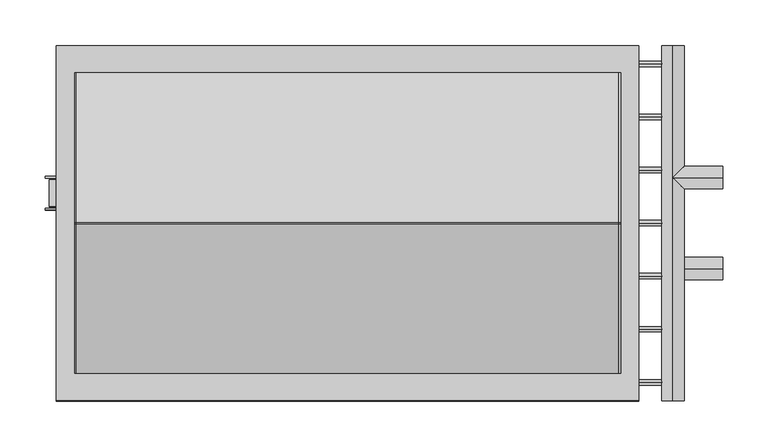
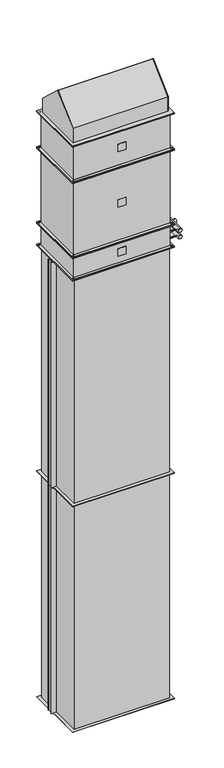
"""IFC4 building model written with IfcOpenShell, lengths in millimetres: proxy geometry, KORF_Завеса_ВодянойНагрев_PWZ_C : PWZ-C 60-35 W2."""

from ifc_helpers import new_model, si_unit, point, frame, frame_2d, origin, origin_with_axes, place, context, project, spatial, polyline, circle_curve, ellipse_curve, trimmed, segment, composite_curve, outline, extrude, source, transform, mapped, element, save
from ifc_brep_helpers import plane_surface, cylinder_surface, advanced_brep


def mechanical_equipment_274835f8(model_context):
    return source(origin(), model_context, "Body", "SolidModel", [
        extrude(outline(polyline([(25.0, -180.0), (-25.0, -180.0), (-25.0, -178.0), (25.0, -178.0), (25.0, -180.0)])), frame((0.0, 0.0, 3050.0), z_axis=(0.0, 0.0, 1.0), x_axis=(1.0, 0.0, 0.0)), (0.0, 0.0, 1.0), 50.0),
        extrude(outline(polyline([(320.0, -195.0), (-320.0, -195.0), (-320.0, 195.0), (320.0, 195.0), (320.0, -195.0)]), holes=[polyline([(300.0, -175.0), (300.0, 175.0), (-300.0, 175.0), (-300.0, -175.0), (300.0, -175.0)]), composite_curve([segment(trimmed(circle_curve(frame_2d((-310.0, -185.0)), 4.5), [point((-305.5, -185.0))], [point((-314.5, -185.0))], True, "CARTESIAN"), True, "CONTINUOUS"), segment(trimmed(circle_curve(frame_2d((-310.0, -185.0)), 4.5), [point((-314.5, -185.0))], [point((-305.5, -185.0))], True, "CARTESIAN"), True, "CONTINUOUS")], self_intersect=False), composite_curve([segment(trimmed(circle_curve(frame_2d((310.0, -185.0)), 4.5), [point((314.5, -185.0))], [point((305.5, -185.0))], True, "CARTESIAN"), True, "CONTINUOUS"), segment(trimmed(circle_curve(frame_2d((310.0, -185.0)), 4.5), [point((305.5, -185.0))], [point((314.5, -185.0))], True, "CARTESIAN"), True, "CONTINUOUS")], self_intersect=False), composite_curve([segment(trimmed(circle_curve(frame_2d((310.0, 185.0)), 4.5), [point((314.5, 185.0))], [point((305.5, 185.0))], True, "CARTESIAN"), True, "CONTINUOUS"), segment(trimmed(circle_curve(frame_2d((310.0, 185.0)), 4.5), [point((305.5, 185.0))], [point((314.5, 185.0))], True, "CARTESIAN"), True, "CONTINUOUS")], self_intersect=False), composite_curve([segment(trimmed(circle_curve(frame_2d((-310.0, 185.0)), 4.5), [point((-305.5, 185.0))], [point((-314.5, 185.0))], True, "CARTESIAN"), True, "CONTINUOUS"), segment(trimmed(circle_curve(frame_2d((-310.0, 185.0)), 4.5), [point((-314.5, 185.0))], [point((-305.5, 185.0))], True, "CARTESIAN"), True, "CONTINUOUS")], self_intersect=False)]), frame((0.0, 0.0, 3145.0), z_axis=(0.0, 0.0, 1.0), x_axis=(1.0, 0.0, 0.0)), (0.0, 0.0, 1.0), 5.0),
        extrude(outline(polyline([(320.0, -195.0), (-320.0, -195.0), (-320.0, 195.0), (320.0, 195.0), (320.0, -195.0)]), holes=[polyline([(300.0, -175.0), (300.0, 175.0), (-300.0, 175.0), (-300.0, -175.0), (300.0, -175.0)]), composite_curve([segment(trimmed(circle_curve(frame_2d((-310.0, -185.0)), 4.5), [point((-305.5, -185.0))], [point((-314.5, -185.0))], True, "CARTESIAN"), True, "CONTINUOUS"), segment(trimmed(circle_curve(frame_2d((-310.0, -185.0)), 4.5), [point((-314.5, -185.0))], [point((-305.5, -185.0))], True, "CARTESIAN"), True, "CONTINUOUS")], self_intersect=False), composite_curve([segment(trimmed(circle_curve(frame_2d((310.0, -185.0)), 4.5), [point((314.5, -185.0))], [point((305.5, -185.0))], True, "CARTESIAN"), True, "CONTINUOUS"), segment(trimmed(circle_curve(frame_2d((310.0, -185.0)), 4.5), [point((305.5, -185.0))], [point((314.5, -185.0))], True, "CARTESIAN"), True, "CONTINUOUS")], self_intersect=False), composite_curve([segment(trimmed(circle_curve(frame_2d((310.0, 185.0)), 4.5), [point((314.5, 185.0))], [point((305.5, 185.0))], True, "CARTESIAN"), True, "CONTINUOUS"), segment(trimmed(circle_curve(frame_2d((310.0, 185.0)), 4.5), [point((305.5, 185.0))], [point((314.5, 185.0))], True, "CARTESIAN"), True, "CONTINUOUS")], self_intersect=False), composite_curve([segment(trimmed(circle_curve(frame_2d((-310.0, 185.0)), 4.5), [point((-305.5, 185.0))], [point((-314.5, 185.0))], True, "CARTESIAN"), True, "CONTINUOUS"), segment(trimmed(circle_curve(frame_2d((-310.0, 185.0)), 4.5), [point((-314.5, 185.0))], [point((-305.5, 185.0))], True, "CARTESIAN"), True, "CONTINUOUS")], self_intersect=False)]), frame((0.0, 0.0, 3000.0), z_axis=(0.0, 0.0, 1.0), x_axis=(1.0, 0.0, 0.0)), (0.0, 0.0, 1.0), 5.0),
        extrude(outline(polyline([(303.0, -178.0), (-303.0, -178.0), (-303.0, 178.0), (303.0, 178.0), (303.0, -178.0)])), frame((0.0, 0.0, 3005.0), z_axis=(0.0, 0.0, 1.0), x_axis=(1.0, 0.0, 0.0)), (0.0, 0.0, 1.0), 140.0),
        advanced_brep(
        [(412.0, -50.0, 3041.0), (412.0, -50.0, 3066.0), (357.5, -50.0, 3041.0), (357.5, -50.0, 3066.0), (357.5, -195.0, 3041.0), (357.5, -195.0, 3066.0), (357.5, 195.0, 3041.0), (357.5, 195.0, 3066.0)],
        [
            (0, 1, circle_curve(frame((412.0, -50.0, 3053.5), z_axis=(1.0, 0.0, 0.0), x_axis=(0.0, 0.0, 1.0000000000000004)), 12.5)),
            (1, 0, circle_curve(frame((412.0, -50.0, 3053.5), z_axis=(1.0, 0.0, 0.0), x_axis=(0.0, 0.0, 1.0000000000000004)), 12.5)),
            (0, 2),
            (2, 3, ellipse_curve(frame((357.5, -50.0, 3053.5), z_axis=(0.7071067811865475, -0.7071067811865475, 0.0), x_axis=(0.7071067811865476, 0.7071067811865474, 0.0)), 17.6776695, 12.5)),
            (3, 1),
            (3, 2, ellipse_curve(frame((357.5, -50.0, 3053.5), z_axis=(0.7071067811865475, 0.7071067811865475, 0.0), x_axis=(0.7071067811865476, -0.7071067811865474, 0.0)), 17.6776695, 12.5)),
            (4, 5, circle_curve(frame((357.5, -195.0, 3053.5), z_axis=(0.0, -1.0, 0.0), x_axis=(0.0, 0.0, 1.0000000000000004)), 12.5)),
            (5, 4, circle_curve(frame((357.5, -195.0, 3053.5), z_axis=(0.0, -1.0, 0.0), x_axis=(0.0, 0.0, 1.0000000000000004)), 12.5)),
            (6, 7, circle_curve(frame((357.5, 195.0, 3053.5), z_axis=(0.0, 1.0, 0.0), x_axis=(0.0, 0.0, 1.0000000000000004)), 12.5)),
            (7, 6, circle_curve(frame((357.5, 195.0, 3053.5), z_axis=(0.0, 1.0, 0.0), x_axis=(0.0, 0.0, 1.0000000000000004)), 12.5)),
            (4, 2),
            (3, 5),
            (7, 3),
            (2, 6),
        ],
        [
            plane_surface(frame((412.0, -50.0, 3066.0), z_axis=(1.0, 0.0, 0.0), x_axis=(0.0, -1.0, 0.0))),
            cylinder_surface(frame((357.5, -50.0, 3053.5), z_axis=(1.0000000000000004, 0.0, 0.0), x_axis=(0.0, 0.0, 1.0000000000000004)), 12.5),
            plane_surface(frame((357.5, -195.0, 3066.0), z_axis=(0.0, -1.0, 0.0), x_axis=(-1.0, 0.0, 0.0))),
            plane_surface(frame((357.5, 195.0, 3066.0), z_axis=(0.0, 1.0, 0.0), x_axis=(1.0, 0.0, 0.0))),
            cylinder_surface(frame((357.5, 195.0, 3053.5), z_axis=(0.0, -1.0, 0.0), x_axis=(0.0, 0.0, 1.0000000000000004)), 12.5),
        ],
        [
            (0, [[1, 2]]),
            (1, [[-1, 3, 4, 5]]),
            (1, [[-2, -5, 6, -3]]),
            (2, [[7, 8]]),
            (3, [[9, 10]]),
            (4, [[-7, 11, -6, 12]]),
            (4, [[-10, 13, -4, 14]]),
            (4, [[-8, -12, -13, -9, -14, -11]]),
        ],
    ),
        advanced_brep(
        [(412.0, 50.0, 3084.0), (412.0, 50.0, 3109.0), (357.5, 50.0, 3084.0), (357.5, 50.0, 3109.0), (357.5, -195.0, 3084.0), (357.5, -195.0, 3109.0), (357.5, 195.0, 3084.0), (357.5, 195.0, 3109.0)],
        [
            (0, 1, circle_curve(frame((412.0, 50.0, 3096.5), z_axis=(1.0, 0.0, 0.0), x_axis=(0.0, 0.0, 1.0000000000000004)), 12.5)),
            (1, 0, circle_curve(frame((412.0, 50.0, 3096.5), z_axis=(1.0, 0.0, 0.0), x_axis=(0.0, 0.0, 1.0000000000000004)), 12.5)),
            (0, 2),
            (2, 3, ellipse_curve(frame((357.5, 50.0, 3096.5), z_axis=(0.7071067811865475, -0.7071067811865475, 0.0), x_axis=(0.7071067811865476, 0.7071067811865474, 0.0)), 17.6776695, 12.5)),
            (3, 1),
            (3, 2, ellipse_curve(frame((357.5, 50.0, 3096.5), z_axis=(0.7071067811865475, 0.7071067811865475, 0.0), x_axis=(0.7071067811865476, -0.7071067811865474, 0.0)), 17.6776695, 12.5)),
            (4, 5, circle_curve(frame((357.5, -195.0, 3096.5), z_axis=(0.0, -1.0, 0.0), x_axis=(0.0, 0.0, 1.0000000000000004)), 12.5)),
            (5, 4, circle_curve(frame((357.5, -195.0, 3096.5), z_axis=(0.0, -1.0, 0.0), x_axis=(0.0, 0.0, 1.0000000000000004)), 12.5)),
            (6, 7, circle_curve(frame((357.5, 195.0, 3096.5), z_axis=(0.0, 1.0, 0.0), x_axis=(0.0, 0.0, 1.0000000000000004)), 12.5)),
            (7, 6, circle_curve(frame((357.5, 195.0, 3096.5), z_axis=(0.0, 1.0, 0.0), x_axis=(0.0, 0.0, 1.0000000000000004)), 12.5)),
            (4, 2),
            (3, 5),
            (7, 3),
            (2, 6),
        ],
        [
            plane_surface(frame((412.0, -50.0, 3066.0), z_axis=(1.0, 0.0, 0.0), x_axis=(0.0, -1.0, 0.0))),
            cylinder_surface(frame((0.0, 50.0, 3096.5), z_axis=(1.0000000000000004, 0.0, 0.0), x_axis=(0.0, 0.0, 1.0000000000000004)), 12.5),
            plane_surface(frame((357.5, -195.0, 3066.0), z_axis=(0.0, -1.0, 0.0), x_axis=(-1.0, 0.0, 0.0))),
            plane_surface(frame((357.5, 195.0, 3066.0), z_axis=(0.0, 1.0, 0.0), x_axis=(1.0, 0.0, 0.0))),
            cylinder_surface(frame((357.5, 0.0, 3096.5), z_axis=(0.0, -1.0, 0.0), x_axis=(0.0, 0.0, 1.0000000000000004)), 12.5),
        ],
        [
            (0, [[1, 2]]),
            (1, [[-1, 3, 4, 5]]),
            (1, [[-2, -5, 6, -3]]),
            (2, [[7, 8]]),
            (3, [[9, 10]]),
            (4, [[-7, 11, -6, 12]]),
            (4, [[-10, 13, -4, 14]]),
            (4, [[-8, -12, -13, -9, -14, -11]]),
        ],
    ),
        extrude(outline(composite_curve([segment(trimmed(circle_curve(frame_2d((-175.0, 3053.5)), 3.0), [point((-175.0, 3050.5))], [point((-175.0, 3056.5))], False, "CARTESIAN"), True, "CONTINUOUS"), segment(trimmed(circle_curve(frame_2d((-175.0, 3053.5)), 3.0), [point((-175.0, 3056.5))], [point((-175.0, 3050.5))], False, "CARTESIAN"), True, "CONTINUOUS")], self_intersect=False)), frame((303.0, 0.0, 0.0), z_axis=(1.0, 0.0, 0.0), x_axis=(0.0, 1.0, 0.0)), (0.0, 0.0, 1.0), 54.5),
        extrude(outline(composite_curve([segment(trimmed(circle_curve(frame_2d((-116.6666667, 3053.5)), 3.0), [point((-116.6666667, 3050.5))], [point((-116.6666667, 3056.5))], False, "CARTESIAN"), True, "CONTINUOUS"), segment(trimmed(circle_curve(frame_2d((-116.6666667, 3053.5)), 3.0), [point((-116.6666667, 3056.5))], [point((-116.6666667, 3050.5))], False, "CARTESIAN"), True, "CONTINUOUS")], self_intersect=False)), frame((303.0, 0.0, 0.0), z_axis=(1.0, 0.0, 0.0), x_axis=(0.0, 1.0, 0.0)), (0.0, 0.0, 1.0), 54.5),
        extrude(outline(composite_curve([segment(trimmed(circle_curve(frame_2d((-58.3333333, 3053.5)), 3.0), [point((-58.3333333, 3050.5))], [point((-58.3333333, 3056.5))], False, "CARTESIAN"), True, "CONTINUOUS"), segment(trimmed(circle_curve(frame_2d((-58.3333333, 3053.5)), 3.0), [point((-58.3333333, 3056.5))], [point((-58.3333333, 3050.5))], False, "CARTESIAN"), True, "CONTINUOUS")], self_intersect=False)), frame((303.0, 0.0, 0.0), z_axis=(1.0, 0.0, 0.0), x_axis=(0.0, 1.0, 0.0)), (0.0, 0.0, 1.0), 54.5),
        extrude(outline(composite_curve([segment(trimmed(circle_curve(frame_2d((0.0, 3053.5)), 3.0), [point((0.0, 3050.5))], [point((0.0, 3056.5))], False, "CARTESIAN"), True, "CONTINUOUS"), segment(trimmed(circle_curve(frame_2d((0.0, 3053.5)), 3.0), [point((0.0, 3056.5))], [point((0.0, 3050.5))], False, "CARTESIAN"), True, "CONTINUOUS")], self_intersect=False)), frame((303.0, 0.0, 0.0), z_axis=(1.0, 0.0, 0.0), x_axis=(0.0, 1.0, 0.0)), (0.0, 0.0, 1.0), 54.5),
        extrude(outline(composite_curve([segment(trimmed(circle_curve(frame_2d((58.3333333, 3053.5)), 3.0), [point((58.3333333, 3050.5))], [point((58.3333333, 3056.5))], False, "CARTESIAN"), True, "CONTINUOUS"), segment(trimmed(circle_curve(frame_2d((58.3333333, 3053.5)), 3.0), [point((58.3333333, 3056.5))], [point((58.3333333, 3050.5))], False, "CARTESIAN"), True, "CONTINUOUS")], self_intersect=False)), frame((303.0, 0.0, 0.0), z_axis=(1.0, 0.0, 0.0), x_axis=(0.0, 1.0, 0.0)), (0.0, 0.0, 1.0), 54.5),
        extrude(outline(composite_curve([segment(trimmed(circle_curve(frame_2d((116.6666667, 3053.5)), 3.0), [point((116.6666667, 3050.5))], [point((116.6666667, 3056.5))], False, "CARTESIAN"), True, "CONTINUOUS"), segment(trimmed(circle_curve(frame_2d((116.6666667, 3053.5)), 3.0), [point((116.6666667, 3056.5))], [point((116.6666667, 3050.5))], False, "CARTESIAN"), True, "CONTINUOUS")], self_intersect=False)), frame((303.0, 0.0, 0.0), z_axis=(1.0, 0.0, 0.0), x_axis=(0.0, 1.0, 0.0)), (0.0, 0.0, 1.0), 54.5),
        extrude(outline(composite_curve([segment(trimmed(circle_curve(frame_2d((116.6666667, 3096.5)), 3.0), [point((116.6666667, 3093.5))], [point((116.6666667, 3099.5))], False, "CARTESIAN"), True, "CONTINUOUS"), segment(trimmed(circle_curve(frame_2d((116.6666667, 3096.5)), 3.0), [point((116.6666667, 3099.5))], [point((116.6666667, 3093.5))], False, "CARTESIAN"), True, "CONTINUOUS")], self_intersect=False)), frame((303.0, 0.0, 0.0), z_axis=(1.0, 0.0, 0.0), x_axis=(0.0, 1.0, 0.0)), (0.0, 0.0, 1.0), 54.5),
        extrude(outline(composite_curve([segment(trimmed(circle_curve(frame_2d((58.3333333, 3096.5)), 3.0), [point((58.3333333, 3093.5))], [point((58.3333333, 3099.5))], False, "CARTESIAN"), True, "CONTINUOUS"), segment(trimmed(circle_curve(frame_2d((58.3333333, 3096.5)), 3.0), [point((58.3333333, 3099.5))], [point((58.3333333, 3093.5))], False, "CARTESIAN"), True, "CONTINUOUS")], self_intersect=False)), frame((303.0, 0.0, 0.0), z_axis=(1.0, 0.0, 0.0), x_axis=(0.0, 1.0, 0.0)), (0.0, 0.0, 1.0), 54.5),
        extrude(outline(composite_curve([segment(trimmed(circle_curve(frame_2d((0.0, 3096.5)), 3.0), [point((0.0, 3093.5))], [point((0.0, 3099.5))], False, "CARTESIAN"), True, "CONTINUOUS"), segment(trimmed(circle_curve(frame_2d((0.0, 3096.5)), 3.0), [point((0.0, 3099.5))], [point((0.0, 3093.5))], False, "CARTESIAN"), True, "CONTINUOUS")], self_intersect=False)), frame((303.0, 0.0, 0.0), z_axis=(1.0, 0.0, 0.0), x_axis=(0.0, 1.0, 0.0)), (0.0, 0.0, 1.0), 54.5),
        extrude(outline(composite_curve([segment(trimmed(circle_curve(frame_2d((-58.3333333, 3096.5)), 3.0), [point((-58.3333333, 3093.5))], [point((-58.3333333, 3099.5))], False, "CARTESIAN"), True, "CONTINUOUS"), segment(trimmed(circle_curve(frame_2d((-58.3333333, 3096.5)), 3.0), [point((-58.3333333, 3099.5))], [point((-58.3333333, 3093.5))], False, "CARTESIAN"), True, "CONTINUOUS")], self_intersect=False)), frame((303.0, 0.0, 0.0), z_axis=(1.0, 0.0, 0.0), x_axis=(0.0, 1.0, 0.0)), (0.0, 0.0, 1.0), 54.5),
        extrude(outline(composite_curve([segment(trimmed(circle_curve(frame_2d((-116.6666667, 3096.5)), 3.0), [point((-116.6666667, 3093.5))], [point((-116.6666667, 3099.5))], False, "CARTESIAN"), True, "CONTINUOUS"), segment(trimmed(circle_curve(frame_2d((-116.6666667, 3096.5)), 3.0), [point((-116.6666667, 3099.5))], [point((-116.6666667, 3093.5))], False, "CARTESIAN"), True, "CONTINUOUS")], self_intersect=False)), frame((303.0, 0.0, 0.0), z_axis=(1.0, 0.0, 0.0), x_axis=(0.0, 1.0, 0.0)), (0.0, 0.0, 1.0), 54.5),
        extrude(outline(composite_curve([segment(trimmed(circle_curve(frame_2d((-175.0, 3096.5)), 3.0), [point((-175.0, 3093.5))], [point((-175.0, 3099.5))], False, "CARTESIAN"), True, "CONTINUOUS"), segment(trimmed(circle_curve(frame_2d((-175.0, 3096.5)), 3.0), [point((-175.0, 3099.5))], [point((-175.0, 3093.5))], False, "CARTESIAN"), True, "CONTINUOUS")], self_intersect=False)), frame((303.0, 0.0, 0.0), z_axis=(1.0, 0.0, 0.0), x_axis=(0.0, 1.0, 0.0)), (0.0, 0.0, 1.0), 54.5),
        extrude(outline(composite_curve([segment(trimmed(circle_curve(frame_2d((175.0, 3053.5)), 3.0), [point((175.0, 3050.5))], [point((175.0, 3056.5))], False, "CARTESIAN"), True, "CONTINUOUS"), segment(trimmed(circle_curve(frame_2d((175.0, 3053.5)), 3.0), [point((175.0, 3056.5))], [point((175.0, 3050.5))], False, "CARTESIAN"), True, "CONTINUOUS")], self_intersect=False)), frame((303.0, 0.0, 0.0), z_axis=(1.0, 0.0, 0.0), x_axis=(0.0, 1.0, 0.0)), (0.0, 0.0, 1.0), 54.5),
        extrude(outline(composite_curve([segment(trimmed(circle_curve(frame_2d((175.0, 3096.5)), 3.0), [point((175.0, 3093.5))], [point((175.0, 3099.5))], False, "CARTESIAN"), True, "CONTINUOUS"), segment(trimmed(circle_curve(frame_2d((175.0, 3096.5)), 3.0), [point((175.0, 3099.5))], [point((175.0, 3093.5))], False, "CARTESIAN"), True, "CONTINUOUS")], self_intersect=False)), frame((303.0, 0.0, 0.0), z_axis=(1.0, 0.0, 0.0), x_axis=(0.0, 1.0, 0.0)), (0.0, 0.0, 1.0), 54.5),
        extrude(outline(polyline([(25.0, -180.0), (-25.0, -180.0), (-25.0, -178.0), (25.0, -178.0), (25.0, -180.0)])), frame((0.0, 0.0, 3744.0), z_axis=(0.0, 0.0, 1.0), x_axis=(1.0, 0.0, 0.0)), (0.0, 0.0, 1.0), 50.0),
        extrude(outline(polyline([(-320.0, -195.0), (-320.0, 195.0), (320.0, 195.0), (320.0, -195.0), (-320.0, -195.0)]), holes=[polyline([(-300.0, -175.0), (300.0, -175.0), (300.0, 175.0), (-300.0, 175.0), (-300.0, -175.0)]), composite_curve([segment(trimmed(circle_curve(frame_2d((310.0, -185.0)), 4.5), [point((314.5, -185.0))], [point((305.5, -185.0))], True, "CARTESIAN"), True, "CONTINUOUS"), segment(trimmed(circle_curve(frame_2d((310.0, -185.0)), 4.5), [point((305.5, -185.0))], [point((314.5, -185.0))], True, "CARTESIAN"), True, "CONTINUOUS")], self_intersect=False), composite_curve([segment(trimmed(circle_curve(frame_2d((-310.0, -185.0)), 4.5), [point((-305.5, -185.0))], [point((-314.5, -185.0))], True, "CARTESIAN"), True, "CONTINUOUS"), segment(trimmed(circle_curve(frame_2d((-310.0, -185.0)), 4.5), [point((-314.5, -185.0))], [point((-305.5, -185.0))], True, "CARTESIAN"), True, "CONTINUOUS")], self_intersect=False), composite_curve([segment(trimmed(circle_curve(frame_2d((-310.0, 185.0)), 4.5), [point((-305.5, 185.0))], [point((-314.5, 185.0))], True, "CARTESIAN"), True, "CONTINUOUS"), segment(trimmed(circle_curve(frame_2d((-310.0, 185.0)), 4.5), [point((-314.5, 185.0))], [point((-305.5, 185.0))], True, "CARTESIAN"), True, "CONTINUOUS")], self_intersect=False), composite_curve([segment(trimmed(circle_curve(frame_2d((310.0, 185.0)), 4.5), [point((314.5, 185.0))], [point((305.5, 185.0))], True, "CARTESIAN"), True, "CONTINUOUS"), segment(trimmed(circle_curve(frame_2d((310.0, 185.0)), 4.5), [point((305.5, 185.0))], [point((314.5, 185.0))], True, "CARTESIAN"), True, "CONTINUOUS")], self_intersect=False)]), frame((0.0, 0.0, 3648.0), z_axis=(0.0, 0.0, 1.0), x_axis=(1.0, 0.0, 0.0)), (0.0, 0.0, 1.0), 5.0),
        extrude(outline(polyline([(-320.0, -195.0), (-320.0, 195.0), (320.0, 195.0), (320.0, -195.0), (-320.0, -195.0)]), holes=[polyline([(-300.0, -175.0), (300.0, -175.0), (300.0, 175.0), (-300.0, 175.0), (-300.0, -175.0)]), composite_curve([segment(trimmed(circle_curve(frame_2d((310.0, -185.0)), 4.5), [point((314.5, -185.0))], [point((305.5, -185.0))], True, "CARTESIAN"), True, "CONTINUOUS"), segment(trimmed(circle_curve(frame_2d((310.0, -185.0)), 4.5), [point((305.5, -185.0))], [point((314.5, -185.0))], True, "CARTESIAN"), True, "CONTINUOUS")], self_intersect=False), composite_curve([segment(trimmed(circle_curve(frame_2d((-310.0, -185.0)), 4.5), [point((-305.5, -185.0))], [point((-314.5, -185.0))], True, "CARTESIAN"), True, "CONTINUOUS"), segment(trimmed(circle_curve(frame_2d((-310.0, -185.0)), 4.5), [point((-314.5, -185.0))], [point((-305.5, -185.0))], True, "CARTESIAN"), True, "CONTINUOUS")], self_intersect=False), composite_curve([segment(trimmed(circle_curve(frame_2d((-310.0, 185.0)), 4.5), [point((-305.5, 185.0))], [point((-314.5, 185.0))], True, "CARTESIAN"), True, "CONTINUOUS"), segment(trimmed(circle_curve(frame_2d((-310.0, 185.0)), 4.5), [point((-314.5, 185.0))], [point((-305.5, 185.0))], True, "CARTESIAN"), True, "CONTINUOUS")], self_intersect=False), composite_curve([segment(trimmed(circle_curve(frame_2d((310.0, 185.0)), 4.5), [point((314.5, 185.0))], [point((305.5, 185.0))], True, "CARTESIAN"), True, "CONTINUOUS"), segment(trimmed(circle_curve(frame_2d((310.0, 185.0)), 4.5), [point((305.5, 185.0))], [point((314.5, 185.0))], True, "CARTESIAN"), True, "CONTINUOUS")], self_intersect=False)]), frame((0.0, 0.0, 3885.0), z_axis=(0.0, 0.0, 1.0), x_axis=(1.0, 0.0, 0.0)), (0.0, 0.0, 1.0), 5.0),
        extrude(outline(polyline([(-303.0, -178.0), (-303.0, 178.0), (303.0, 178.0), (303.0, -178.0), (-303.0, -178.0)])), frame((0.0, 0.0, 3653.0), z_axis=(0.0, 0.0, 1.0), x_axis=(1.0, 0.0, 0.0)), (0.0, 0.0, 1.0), 232.0),
        extrude(outline(polyline([(25.0, -180.0), (-25.0, -180.0), (-25.0, -178.0), (25.0, -178.0), (25.0, -180.0)])), frame((0.0, 0.0, 3374.0), z_axis=(0.0, 0.0, 1.0), x_axis=(1.0, 0.0, 0.0)), (0.0, 0.0, 1.0), 50.0),
        extrude(outline(polyline([(320.0, -195.0), (-320.0, -195.0), (-320.0, 195.0), (320.0, 195.0), (320.0, -195.0)]), holes=[polyline([(300.0, -175.0), (300.0, 175.0), (-300.0, 175.0), (-300.0, -175.0), (300.0, -175.0)]), composite_curve([segment(trimmed(circle_curve(frame_2d((-310.0, -185.0)), 4.5), [point((-305.5, -185.0))], [point((-314.5, -185.0))], True, "CARTESIAN"), True, "CONTINUOUS"), segment(trimmed(circle_curve(frame_2d((-310.0, -185.0)), 4.5), [point((-314.5, -185.0))], [point((-305.5, -185.0))], True, "CARTESIAN"), True, "CONTINUOUS")], self_intersect=False), composite_curve([segment(trimmed(circle_curve(frame_2d((310.0, -185.0)), 4.5), [point((314.5, -185.0))], [point((305.5, -185.0))], True, "CARTESIAN"), True, "CONTINUOUS"), segment(trimmed(circle_curve(frame_2d((310.0, -185.0)), 4.5), [point((305.5, -185.0))], [point((314.5, -185.0))], True, "CARTESIAN"), True, "CONTINUOUS")], self_intersect=False), composite_curve([segment(trimmed(circle_curve(frame_2d((310.0, 185.0)), 4.5), [point((314.5, 185.0))], [point((305.5, 185.0))], True, "CARTESIAN"), True, "CONTINUOUS"), segment(trimmed(circle_curve(frame_2d((310.0, 185.0)), 4.5), [point((305.5, 185.0))], [point((314.5, 185.0))], True, "CARTESIAN"), True, "CONTINUOUS")], self_intersect=False), composite_curve([segment(trimmed(circle_curve(frame_2d((-310.0, 185.0)), 4.5), [point((-305.5, 185.0))], [point((-314.5, 185.0))], True, "CARTESIAN"), True, "CONTINUOUS"), segment(trimmed(circle_curve(frame_2d((-310.0, 185.0)), 4.5), [point((-314.5, 185.0))], [point((-305.5, 185.0))], True, "CARTESIAN"), True, "CONTINUOUS")], self_intersect=False)]), frame((0.0, 0.0, 3643.0), z_axis=(0.0, 0.0, 1.0), x_axis=(1.0, 0.0, 0.0)), (0.0, 0.0, 1.0), 5.0),
        extrude(outline(polyline([(320.0, -195.0), (-320.0, -195.0), (-320.0, 195.0), (320.0, 195.0), (320.0, -195.0)]), holes=[polyline([(300.0, -175.0), (300.0, 175.0), (-300.0, 175.0), (-300.0, -175.0), (300.0, -175.0)]), composite_curve([segment(trimmed(circle_curve(frame_2d((-310.0, -185.0)), 4.5), [point((-305.5, -185.0))], [point((-314.5, -185.0))], True, "CARTESIAN"), True, "CONTINUOUS"), segment(trimmed(circle_curve(frame_2d((-310.0, -185.0)), 4.5), [point((-314.5, -185.0))], [point((-305.5, -185.0))], True, "CARTESIAN"), True, "CONTINUOUS")], self_intersect=False), composite_curve([segment(trimmed(circle_curve(frame_2d((310.0, -185.0)), 4.5), [point((314.5, -185.0))], [point((305.5, -185.0))], True, "CARTESIAN"), True, "CONTINUOUS"), segment(trimmed(circle_curve(frame_2d((310.0, -185.0)), 4.5), [point((305.5, -185.0))], [point((314.5, -185.0))], True, "CARTESIAN"), True, "CONTINUOUS")], self_intersect=False), composite_curve([segment(trimmed(circle_curve(frame_2d((310.0, 185.0)), 4.5), [point((314.5, 185.0))], [point((305.5, 185.0))], True, "CARTESIAN"), True, "CONTINUOUS"), segment(trimmed(circle_curve(frame_2d((310.0, 185.0)), 4.5), [point((305.5, 185.0))], [point((314.5, 185.0))], True, "CARTESIAN"), True, "CONTINUOUS")], self_intersect=False), composite_curve([segment(trimmed(circle_curve(frame_2d((-310.0, 185.0)), 4.5), [point((-305.5, 185.0))], [point((-314.5, 185.0))], True, "CARTESIAN"), True, "CONTINUOUS"), segment(trimmed(circle_curve(frame_2d((-310.0, 185.0)), 4.5), [point((-314.5, 185.0))], [point((-305.5, 185.0))], True, "CARTESIAN"), True, "CONTINUOUS")], self_intersect=False)]), frame((0.0, 0.0, 3150.0), z_axis=(0.0, 0.0, 1.0), x_axis=(1.0, 0.0, 0.0)), (0.0, 0.0, 1.0), 5.0),
        extrude(outline(polyline([(303.0, -178.0), (-303.0, -178.0), (-303.0, 178.0), (303.0, 178.0), (303.0, -178.0)])), frame((0.0, 0.0, 3155.0), z_axis=(0.0, 0.0, 1.0), x_axis=(1.0, 0.0, 0.0)), (0.0, 0.0, 1.0), 488.0),
        extrude(outline(polyline([(300.0, 175.0), (300.0, -175.0), (-300.0, -175.0), (-300.0, 175.0), (300.0, 175.0)])), frame((0.0, 0.0, 1500.0), z_axis=(0.0, 0.0, 1.0), x_axis=(1.0, 0.0, 0.0)), (0.0, 0.0, 1.0), 1500.0),
        extrude(outline(polyline([(-328.0, 47.5), (-300.0, 47.5), (-300.0, 18.5), (-328.0, 18.5), (-328.0, 47.5)])), frame((0.0, 0.0, 1502.0), z_axis=(0.0, 0.0, 1.0), x_axis=(1.0, 0.0, 0.0)), (0.0, 0.0, 1.0), 1496.0),
        extrude(outline(polyline([(-332.0, 51.5), (-300.0, 51.5), (-300.0, 49.5), (-332.0, 49.5), (-332.0, 51.5)])), frame((0.0, 0.0, 1502.0), z_axis=(0.0, 0.0, 1.0), x_axis=(1.0, 0.0, 0.0)), (0.0, 0.0, 1.0), 1496.0),
        extrude(outline(polyline([(-332.0, 14.5), (-332.0, 16.5), (-300.0, 16.5), (-300.0, 14.5), (-332.0, 14.5)])), frame((0.0, 0.0, 1502.0), z_axis=(0.0, 0.0, 1.0), x_axis=(1.0, 0.0, 0.0)), (0.0, 0.0, 1.0), 1496.0),
        extrude(outline(polyline([(320.0, 195.0), (320.0, -195.0), (-320.0, -195.0), (-320.0, 195.0), (320.0, 195.0)]), holes=[polyline([(300.0, 175.0), (-300.0, 175.0), (-300.0, -175.0), (300.0, -175.0), (300.0, 175.0)])]), frame((0.0, 0.0, 2998.0), z_axis=(0.0, 0.0, 1.0), x_axis=(1.0, 0.0, 0.0)), (0.0, 0.0, 1.0), 2.0),
        extrude(outline(polyline([(320.0, 195.0), (320.0, -195.0), (-320.0, -195.0), (-320.0, 195.0), (320.0, 195.0)]), holes=[polyline([(300.0, 175.0), (-300.0, 175.0), (-300.0, -175.0), (300.0, -175.0), (300.0, 175.0)])]), frame((0.0, 0.0, 1500.0), z_axis=(0.0, 0.0, 1.0), x_axis=(1.0, 0.0, 0.0)), (0.0, 0.0, 1.0), 2.0),
        extrude(outline(polyline([(300.0, 175.0), (300.0, -175.0), (-300.0, -175.0), (-300.0, 175.0), (300.0, 175.0)])), origin_with_axes(), (0.0, 0.0, 1.0), 1500.0),
        extrude(outline(polyline([(-328.0, 47.5), (-300.0, 47.5), (-300.0, 18.5), (-328.0, 18.5), (-328.0, 47.5)])), frame((0.0, 0.0, 2.0), z_axis=(0.0, 0.0, 1.0), x_axis=(1.0, 0.0, 0.0)), (0.0, 0.0, 1.0), 1496.0),
        extrude(outline(polyline([(-332.0, 51.5), (-300.0, 51.5), (-300.0, 49.5), (-332.0, 49.5), (-332.0, 51.5)])), frame((0.0, 0.0, 2.0), z_axis=(0.0, 0.0, 1.0), x_axis=(1.0, 0.0, 0.0)), (0.0, 0.0, 1.0), 1496.0),
        extrude(outline(polyline([(-332.0, 14.5), (-332.0, 16.5), (-300.0, 16.5), (-300.0, 14.5), (-332.0, 14.5)])), frame((0.0, 0.0, 2.0), z_axis=(0.0, 0.0, 1.0), x_axis=(1.0, 0.0, 0.0)), (0.0, 0.0, 1.0), 1496.0),
        extrude(outline(polyline([(320.0, 195.0), (320.0, -195.0), (-320.0, -195.0), (-320.0, 195.0), (320.0, 195.0)]), holes=[polyline([(300.0, 175.0), (-300.0, 175.0), (-300.0, -175.0), (300.0, -175.0), (300.0, 175.0)])]), frame((0.0, 0.0, 1498.0), z_axis=(0.0, 0.0, 1.0), x_axis=(1.0, 0.0, 0.0)), (0.0, 0.0, 1.0), 2.0),
        extrude(outline(polyline([(320.0, 195.0), (320.0, -195.0), (-320.0, -195.0), (-320.0, 195.0), (320.0, 195.0)]), holes=[polyline([(300.0, 175.0), (-300.0, 175.0), (-300.0, -175.0), (300.0, -175.0), (300.0, 175.0)])]), origin_with_axes(), (0.0, 0.0, 1.0), 2.0),
        extrude(outline(composite_curve([segment(polyline([(165.0, 3987.1428571), (165.0, 3892.0), (-165.0, 3892.0), (-165.0, 3987.1428571), (-0.6395979, 4139.3786763)]), True, "CONTINUOUS"), segment(trimmed(circle_curve(frame_2d((0.0, 4138.7202668)), 0.9179263), [point((-0.6395979, 4139.3786763))], [point((0.6395979, 4139.3786763))], False, "CARTESIAN"), True, "CONTINUOUS"), segment(polyline([(0.6395979, 4139.3786763), (165.0, 3987.1428571)]), True, "CONTINUOUS")], self_intersect=False)), frame((298.0, 0.0, 0.0), z_axis=(1.0, 0.0, 0.0), x_axis=(0.0, 1.0, 0.0)), (0.0, 0.0, 1.0), 2.0),
        extrude(outline(composite_curve([segment(polyline([(165.0, 3987.1428571), (165.0, 3892.0), (-165.0, 3892.0), (-165.0, 3987.1428571), (-0.6395979, 4139.3786763)]), True, "CONTINUOUS"), segment(trimmed(circle_curve(frame_2d((0.0, 4138.7202668)), 0.9179263), [point((-0.6395979, 4139.3786763))], [point((0.6395979, 4139.3786763))], False, "CARTESIAN"), True, "CONTINUOUS"), segment(polyline([(0.6395979, 4139.3786763), (165.0, 3987.1428571)]), True, "CONTINUOUS")], self_intersect=False)), frame((-298.0, 0.0, 0.0), z_axis=(1.0, 0.0, 0.0), x_axis=(0.0, 1.0, 0.0)), (0.0, 0.0, 1.0), 596.0),
        extrude(outline(composite_curve([segment(polyline([(165.0, 3987.1428571), (165.0, 3892.0), (-165.0, 3892.0), (-165.0, 3987.1428571), (-0.6395979, 4139.3786763)]), True, "CONTINUOUS"), segment(trimmed(circle_curve(frame_2d((0.0, 4138.7202668)), 0.9179263), [point((-0.6395979, 4139.3786763))], [point((0.6395979, 4139.3786763))], False, "CARTESIAN"), True, "CONTINUOUS"), segment(polyline([(0.6395979, 4139.3786763), (165.0, 3987.1428571)]), True, "CONTINUOUS")], self_intersect=False)), frame((-300.0, 0.0, 0.0), z_axis=(1.0, 0.0, 0.0), x_axis=(0.0, 1.0, 0.0)), (0.0, 0.0, 1.0), 2.0),
        extrude(outline(polyline([(320.0, 195.0), (320.0, -195.0), (-320.0, -195.0), (-320.0, 195.0), (320.0, 195.0)]), holes=[polyline([(-300.0, 165.0), (-300.0, -165.0), (300.0, -165.0), (300.0, 165.0), (-300.0, 165.0)])]), frame((0.0, 0.0, 3890.0), z_axis=(0.0, 0.0, 1.0), x_axis=(1.0, 0.0, 0.0)), (0.0, 0.0, 1.0), 2.0),
    ])


if __name__ == "__main__":
    model = new_model("IFC4")
    model_context = context("Model", 3, world=origin())
    ifc_project = project(units=[si_unit("LENGTHUNIT", "METRE", prefix="MILLI")], contexts=[model_context])
    site = spatial("IfcSite", under=ifc_project)
    building = spatial("IfcBuilding", under=site)
    placement = place(None, origin())
    mechanical_equipment_shape = mechanical_equipment_274835f8(model_context)
    element("IfcBuildingElementProxy", 1, Name="KORF_Завеса_ВодянойНагрев_PWZ_C : PWZ-C 60-35 W2", ObjectType="KORF_Завеса_ВодянойНагрев_PWZ_C : PWZ-C 60-35 W2", at=placement, inside=building, context=model_context, shape_type="MappedRepresentation", body=[
        mapped(mechanical_equipment_shape, transform((0.0, 0.0, 0.0), x_axis=(1.0, 0.0, 0.0), y_axis=(0.0, 1.0, 0.0), z_axis=(0.0, 0.0, 1.0))),
    ])
    save(model, "model.ifc")
